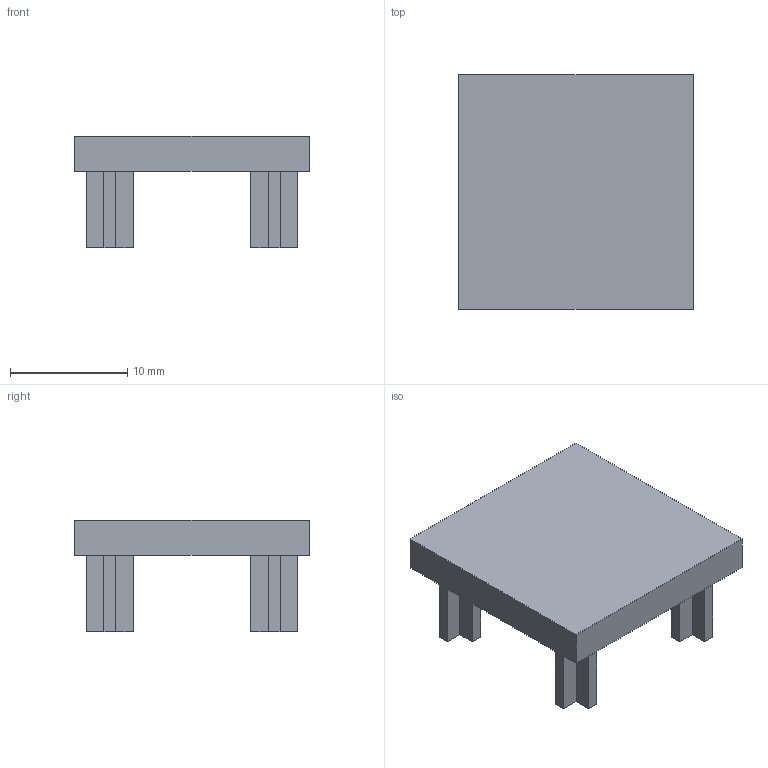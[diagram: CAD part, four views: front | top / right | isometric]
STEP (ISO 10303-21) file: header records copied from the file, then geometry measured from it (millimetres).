
FILE_DESCRIPTION(/* description */ ('Unknown'),/* implementation_level */ '2;1');
FILE_NAME(/* name */ 'CAP2020',/* time_stamp */ '2026-08-31T14:01:54+08:00',/* author */ ('Unknown'),/* organization */ ('Unknown'),/* preprocessor_version */ 'ST-DEVELOPER v16.7',/* originating_system */ 'DEX',/* authorisation */ $);
FILE_SCHEMA (('AUTOMOTIVE_DESIGN {1 0 10303 214 3 1 1}'));
Length unit declared in the file: millimetre
Products named in the file (1): Part1
Bounding box: 20 x 20 x 9.5 mm (x, y, z)
Volume: 790 mm3; surface area: 1696 mm2
Topology: 1 solids, 1 shells, 75 faces, 200 edges, 128 vertices
Faces by surface type: plane 75
Entity records: 2296 total; most frequent: CARTESIAN_POINT 404, ORIENTED_EDGE 400, DIRECTION 352, EDGE_CURVE 200, LINE 200, VECTOR 200, VERTEX_POINT 128, EDGE_LOOP 76
